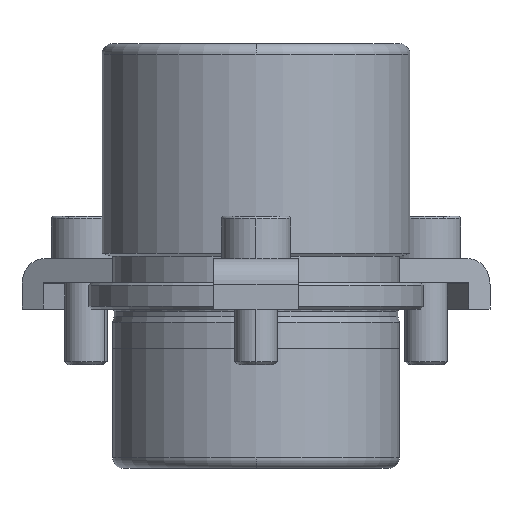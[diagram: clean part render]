
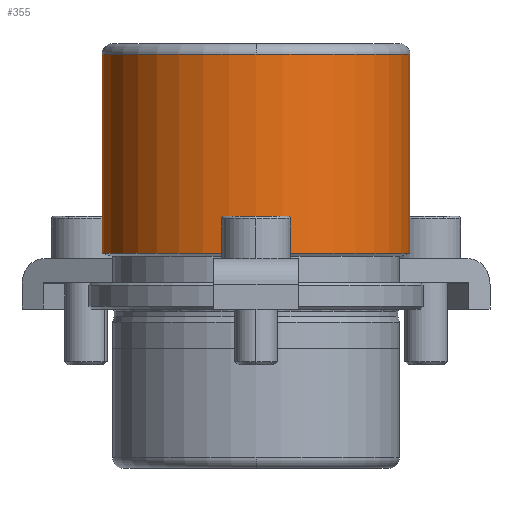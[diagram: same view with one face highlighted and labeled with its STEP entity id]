
A CAD part, front view. The second image highlights one B-rep face of the part: STEP entity #355.
In plain terms, the highlighted cylindrical face has radius 29 mm (diameter 58 mm), a partial arc.
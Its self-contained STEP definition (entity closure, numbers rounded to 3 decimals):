
#269=CARTESIAN_POINT('',(0.0,-29.,48.));
#270=VERTEX_POINT('',#269);
#296=CARTESIAN_POINT('',(-29.0,0.,48.));
#297=VERTEX_POINT('',#296);
#305=CARTESIAN_POINT('',(0.0,0.,48.));
#306=DIRECTION('',(0.0,0.0,1.0));
#307=DIRECTION('',(1.0,0.0,0.0));
#308=AXIS2_PLACEMENT_3D('',#305,#306,#307);
#309=CIRCLE('',#308,29.);
#310=EDGE_CURVE('',#297,#270,#309,.T.);
#315=CARTESIAN_POINT('',(0.0,0.,29.25));
#316=DIRECTION('',(0.0,0.,1.0));
#317=DIRECTION('',(1.0,0.0,0.0));
#318=AXIS2_PLACEMENT_3D('',#315,#316,#317);
#319=CYLINDRICAL_SURFACE('',#318,29.0);
#320=CARTESIAN_POINT('',(29.,0.,48.));
#321=VERTEX_POINT('',#320);
#322=CARTESIAN_POINT('',(29.0,0.,10.5));
#323=VERTEX_POINT('',#322);
#324=CARTESIAN_POINT('',(29.,0.,48.));
#325=DIRECTION('',(0.0,0.0,-1.0));
#326=VECTOR('',#325,37.5);
#327=LINE('',#324,#326);
#328=EDGE_CURVE('',#321,#323,#327,.T.);
#329=ORIENTED_EDGE('',*,*,#328,.F.);
#330=CARTESIAN_POINT('',(0.0,0.,48.));
#331=DIRECTION('',(0.0,0.0,1.0));
#332=DIRECTION('',(1.0,0.0,0.0));
#333=AXIS2_PLACEMENT_3D('',#330,#331,#332);
#334=CIRCLE('',#333,29.);
#335=EDGE_CURVE('',#270,#321,#334,.T.);
#336=ORIENTED_EDGE('',*,*,#335,.F.);
#337=ORIENTED_EDGE('',*,*,#310,.F.);
#338=CARTESIAN_POINT('',(-29.0,0.,10.5));
#339=VERTEX_POINT('',#338);
#340=CARTESIAN_POINT('',(-29.0,0.,48.));
#341=DIRECTION('',(0.0,0.0,-1.0));
#342=VECTOR('',#341,37.5);
#343=LINE('',#340,#342);
#344=EDGE_CURVE('',#297,#339,#343,.T.);
#345=ORIENTED_EDGE('',*,*,#344,.T.);
#346=CARTESIAN_POINT('',(0.0,0.,10.5));
#347=DIRECTION('',(0.0,0.0,1.0));
#348=DIRECTION('',(1.0,0.0,0.0));
#349=AXIS2_PLACEMENT_3D('',#346,#347,#348);
#350=CIRCLE('',#349,29.0);
#351=EDGE_CURVE('',#339,#323,#350,.T.);
#352=ORIENTED_EDGE('',*,*,#351,.T.);
#353=EDGE_LOOP('',(#329,#336,#337,#345,#352));
#354=FACE_OUTER_BOUND('',#353,.T.);
#355=ADVANCED_FACE('',(#354),#319,.T.);
